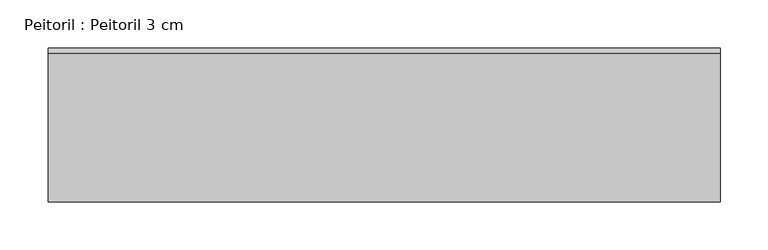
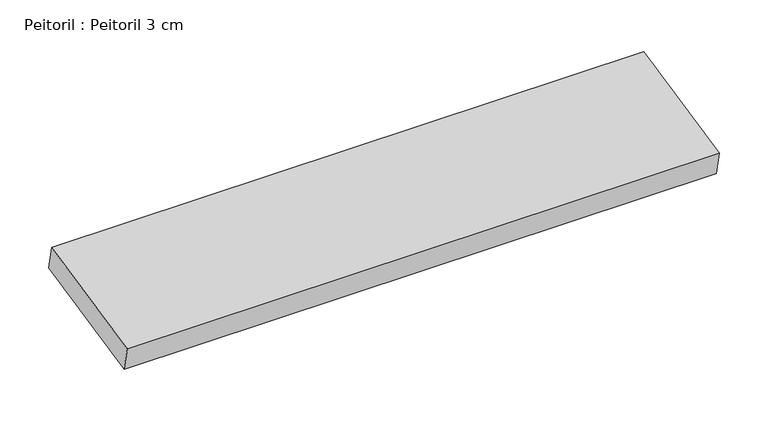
"""IFC4 building model written with IfcOpenShell, lengths in millimetres: proxy geometry, Peitoril : Peitoril 3 cm."""

from ifc_helpers import new_model, si_unit, frame, origin, place, context, project, spatial, polyline, outline, extrude, source, transform, mapped, element, save


def peitoril_peitoril_3_cm_3798d146(model_context):
    return source(origin(), model_context, "Body", "SweptSolid", [
        extrude(outline(polyline([(0.0, 158.0245115), (700.0, 158.0245115), (700.0, 0.0), (0.0, 0.0), (0.0, 158.0245115)])), frame((511.81445, 32.3195188, 880.655572), z_axis=(0.0, -0.20791169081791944, 0.9781476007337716), x_axis=(-1.0, 0.0, 0.0)), (0.0, 0.0, 1.0), 30.0),
    ])


if __name__ == "__main__":
    model = new_model("IFC4")
    model_context = context("Model", 3, world=origin())
    ifc_project = project(units=[si_unit("LENGTHUNIT", "METRE", prefix="MILLI")], contexts=[model_context])
    site = spatial("IfcSite", under=ifc_project)
    building = spatial("IfcBuilding", under=site)
    placement = place(None, origin())
    peitoril_peitoril_3_cm_shape = peitoril_peitoril_3_cm_3798d146(model_context)
    element("IfcBuildingElementProxy", 1, Name="Peitoril : Peitoril 3 cm", ObjectType="Peitoril : Peitoril 3 cm", at=placement, inside=building, context=model_context, shape_type="MappedRepresentation", body=[
        mapped(peitoril_peitoril_3_cm_shape, transform((0.0, 0.0, 0.0), x_axis=(1.0, 0.0, 0.0), y_axis=(0.0, 1.0, 0.0), z_axis=(0.0, 0.0, 1.0))),
    ])
    save(model, "model.ifc")
